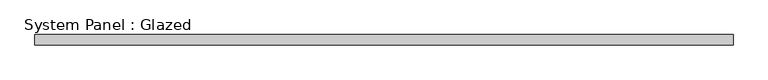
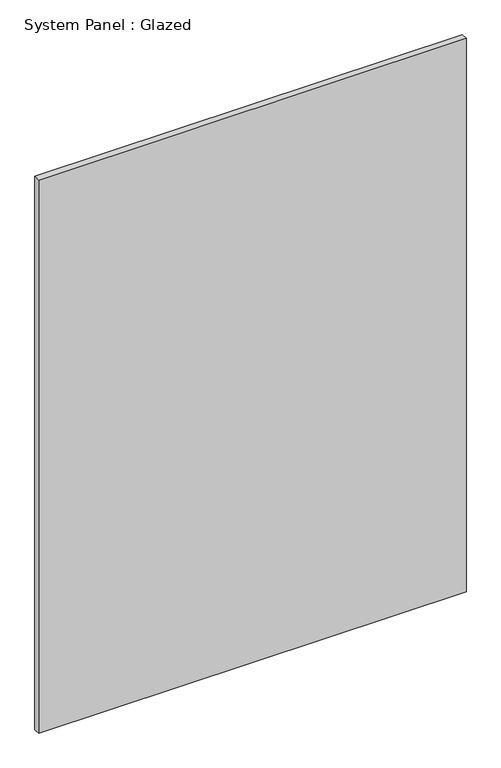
"""IFC4 building model written with IfcOpenShell, lengths in millimetres: plate geometry, System Panel : Glazed."""

import ifcopenshell
import ifcopenshell.guid

model = None  # the IFC model being written
_history = None  # IfcOwnerHistory: only IFC2X3 demands one
_inside = {}  # id of a spatial element -> (the spatial element, [elements in it])
_under = {}  # id of a project, library or spatial element -> (it, [spatial elements below it])
_declared = {}  # id of a project -> (the project, [libraries it declares])
_typed = {}  # id of a type object -> (the type object, [elements of that type])
_made_of = {}  # id of a material, layer set ... -> (it, [elements and type objects made of it])


def new_model(schema):
    """Start an empty IFC model of exactly this schema.

    Asked for "IFC4X3", IfcOpenShell would pick the latest addendum, in which some entities
    have other attributes; the version numbers below select the first issue.
    IFC2X3 requires an IfcOwnerHistory on every rooted entity: one is made here for all.
    """
    global model, _history
    if schema == "IFC4X3":
        model = ifcopenshell.file(schema_version=(4, 3, 0, 0))
    else:
        model = ifcopenshell.file(schema=schema)
    _inside.clear()
    _under.clear()
    _declared.clear()
    _typed.clear()
    _made_of.clear()
    _history = None
    if model.schema == "IFC2X3":
        org = make("IfcOrganization", Name="unknown")
        user = make(
            "IfcPersonAndOrganization",
            ThePerson=make("IfcPerson", FamilyName="unknown"),
            TheOrganization=org,
        )
        app = make(
            "IfcApplication",
            ApplicationDeveloper=org,
            Version="unknown",
            ApplicationFullName="unknown",
            ApplicationIdentifier="unknown",
        )
        _history = make(
            "IfcOwnerHistory",
            OwningUser=user,
            OwningApplication=app,
            ChangeAction="ADDED",
            CreationDate=0,
        )
    return model


def make(cls, **values):
    """One entity of the class cls with the attributes given. An attribute that is None is left unset."""
    return model.create_entity(
        cls, **{name: value for name, value in values.items() if value is not None}
    )


def rooted(cls, **values):
    """An entity with a GlobalId (a new one), such as an element, a storey or a relation."""
    return make(cls, GlobalId=ifcopenshell.guid.new(), OwnerHistory=_history, **values)


def si_unit(unit_type, name, prefix=None):
    """IfcSIUnit, for example si_unit("LENGTHUNIT", "METRE", prefix="MILLI")."""
    return make("IfcSIUnit", UnitType=unit_type, Prefix=prefix, Name=name)


def assignment(units):
    """IfcUnitAssignment: the units of a project."""
    return None if units is None else make("IfcUnitAssignment", Units=units)


def point(xyz):
    """IfcCartesianPoint."""
    return None if xyz is None else make("IfcCartesianPoint", Coordinates=xyz)


def direction(xyz):
    """IfcDirection."""
    return None if xyz is None else make("IfcDirection", DirectionRatios=xyz)


def frame(location, z_axis=None, x_axis=None):
    """IfcAxis2Placement3D, a coordinate frame: its origin and axes. An axis left out is left unset."""
    return make(
        "IfcAxis2Placement3D",
        Location=point(location),
        Axis=direction(z_axis),
        RefDirection=direction(x_axis),
    )


def origin():
    """The frame at (0, 0, 0) with its axes left unset."""
    return frame((0.0, 0.0, 0.0))


def origin_with_axes():
    """The frame at (0, 0, 0) with the z axis (0, 0, 1) and the x axis (1, 0, 0) written out."""
    return frame((0.0, 0.0, 0.0), z_axis=(0.0, 0.0, 1.0), x_axis=(1.0, 0.0, 0.0))


def place(relative_to, where):
    """IfcLocalPlacement: puts the frame where relative to a parent placement (None: the world)."""
    return make(
        "IfcLocalPlacement", PlacementRelTo=relative_to, RelativePlacement=where
    )


def context(
    kind, dimensions, precision=None, world=None, true_north=None, identifier=None
):
    """IfcGeometricRepresentationContext, for example the 3D "Model" context."""
    return make(
        "IfcGeometricRepresentationContext",
        ContextIdentifier=identifier,
        ContextType=kind,
        CoordinateSpaceDimension=dimensions,
        Precision=precision,
        WorldCoordinateSystem=world,
        TrueNorth=true_north,
    )


def project(units=None, contexts=None):
    """IfcProject with its units and contexts."""
    return rooted(
        "IfcProject",
        Name="project",
        RepresentationContexts=contexts,
        UnitsInContext=assignment(units),
    )


def spatial(cls, under=None, at=None, **own):
    """A site, building, storey or space (cls), placed at a placement, below another one or the project."""
    s = rooted(cls, ObjectPlacement=at, **own)
    if under is not None:
        _under.setdefault(under.id(), (under, []))[1].append(s)
    return s


def polyline(points):
    """IfcPolyline through the points."""
    return make("IfcPolyline", Points=[point(p) for p in points])


def outline(outer, holes=None, kind="AREA"):
    """IfcArbitraryClosedProfileDef: a profile drawn as a closed curve; with holes, ...WithVoids."""
    if holes is None:
        return make("IfcArbitraryClosedProfileDef", ProfileType=kind, OuterCurve=outer)
    return make(
        "IfcArbitraryProfileDefWithVoids",
        ProfileType=kind,
        OuterCurve=outer,
        InnerCurves=holes,
    )


def extrude(swept, where, along, depth):
    """IfcExtrudedAreaSolid: the profile swept, set in the frame where, extruded along a direction by depth."""
    return make(
        "IfcExtrudedAreaSolid",
        SweptArea=swept,
        Position=where,
        ExtrudedDirection=direction(along),
        Depth=depth,
    )


def shape(context_of_items, identifier, shape_type, items):
    """IfcShapeRepresentation: the items that make up one representation, for example the "Body"."""
    return make(
        "IfcShapeRepresentation",
        ContextOfItems=context_of_items,
        RepresentationIdentifier=identifier,
        RepresentationType=shape_type,
        Items=items,
    )


def source(mapping_origin, context_of_items, identifier, shape_type, items):
    """IfcRepresentationMap: a shape defined once, which mapped items show again and again."""
    return make(
        "IfcRepresentationMap",
        MappingOrigin=mapping_origin,
        MappedRepresentation=shape(context_of_items, identifier, shape_type, items),
    )


def transform(
    local_origin,
    x_axis=None,
    y_axis=None,
    z_axis=None,
    scale=None,
    scale2=None,
    scale3=None,
    uniform=True,
):
    """IfcCartesianTransformationOperator3D, or its non-uniform kind. x_axis, y_axis, z_axis: its Axis1, 2, 3."""
    if uniform:
        return make(
            "IfcCartesianTransformationOperator3D",
            Axis1=direction(x_axis),
            Axis2=direction(y_axis),
            LocalOrigin=point(local_origin),
            Scale=scale,
            Axis3=direction(z_axis),
        )
    return make(
        "IfcCartesianTransformationOperator3DnonUniform",
        Axis1=direction(x_axis),
        Axis2=direction(y_axis),
        LocalOrigin=point(local_origin),
        Scale=scale,
        Axis3=direction(z_axis),
        Scale2=scale2,
        Scale3=scale3,
    )


def mapped(mapping_source, mapping_target):
    """IfcMappedItem: shows the shape of a source again, moved by a transform."""
    return make(
        "IfcMappedItem", MappingSource=mapping_source, MappingTarget=mapping_target
    )


def made_of(thing, what):
    """Note that an element or type object is made of a material, layer set ...; save() writes the relation."""
    if what is not None:
        _made_of.setdefault(what.id(), (what, []))[1].append(thing)
    return thing


def element(
    cls,
    number,
    at=None,
    inside=None,
    cuts=None,
    type_object=None,
    material=None,
    context=None,
    identifier="Body",
    shape_type=None,
    held_by="IfcProductDefinitionShape",
    body=None,
    shapes=None,
    **own,
):
    """One element of the class cls, such as IfcWall. Its Tag is "e" and its number.

    at: its placement. inside: the storey or other place that contains it. cuts: it is an
    opening in that element (IfcRelVoidsElement). A single representation is given by context,
    identifier, shape_type and body (its items); several are given by shapes. held_by: the class
    of the entity that holds the representations. save() writes the other relations.
    """
    e = rooted(cls, Tag="e%d" % number, ObjectPlacement=at, **own)
    if body is not None:
        shapes = [shape(context, identifier, shape_type, body)]
    if shapes is not None:
        e.Representation = make(held_by, Representations=shapes)
    if inside is not None:
        _inside.setdefault(inside.id(), (inside, []))[1].append(e)
    if cuts is not None:
        rooted(
            "IfcRelVoidsElement", RelatingBuildingElement=cuts, RelatedOpeningElement=e
        )
    if type_object is not None:
        _typed.setdefault(type_object.id(), (type_object, []))[1].append(e)
    return made_of(e, material)


def aggregate(whole, parts):
    """IfcRelAggregates: a whole, such as a stair, and the parts it consists of."""
    return rooted("IfcRelAggregates", RelatingObject=whole, RelatedObjects=parts)


def save(model, path):
    """Write the relations noted so far, then the file.

    IfcRelAggregates (storeys below a building ...), IfcRelContainedInSpatialStructure (elements
    in a storey), IfcRelDefinesByType, IfcRelAssociatesMaterial and IfcRelDeclares: one each for
    every whole, place, type object, material and project.
    """
    for whole, parts in _under.values():
        aggregate(whole, parts)
    for where, things in _inside.values():
        rooted(
            "IfcRelContainedInSpatialStructure",
            RelatedElements=things,
            RelatingStructure=where,
        )
    for kind, things in _typed.values():
        rooted("IfcRelDefinesByType", RelatedObjects=things, RelatingType=kind)
    for what, things in _made_of.values():
        rooted("IfcRelAssociatesMaterial", RelatedObjects=things, RelatingMaterial=what)
    for by, libraries in _declared.values():
        rooted("IfcRelDeclares", RelatingContext=by, RelatedDefinitions=libraries)
    model.write(path)


def system_panel_glazed_41349d7e(model_context):
    return source(origin(), model_context, "Body", "SweptSolid", [
        extrude(outline(polyline([(868.2793088, 19.05), (-868.2793088, 19.05), (-868.2793088, 44.45), (868.2793088, 44.45), (868.2793088, 19.05)])), origin_with_axes(), (0.0, 0.0, 1.0), 2374.7638735),
    ])


if __name__ == "__main__":
    model = new_model("IFC4")
    model_context = context("Model", 3, world=origin())
    ifc_project = project(units=[si_unit("LENGTHUNIT", "METRE", prefix="MILLI")], contexts=[model_context])
    site = spatial("IfcSite", under=ifc_project)
    building = spatial("IfcBuilding", under=site)
    placement = place(None, origin())
    system_panel_glazed_shape = system_panel_glazed_41349d7e(model_context)
    element("IfcPlate", 1, ObjectType="System Panel : Glazed", at=placement, inside=building, context=model_context, shape_type="MappedRepresentation", body=[
        mapped(system_panel_glazed_shape, transform((0.0, 0.0, 0.0), x_axis=(1.0, 0.0, 0.0), y_axis=(0.0, 1.0, 0.0), z_axis=(0.0, 0.0, 1.0))),
    ])
    save(model, "model.ifc")
